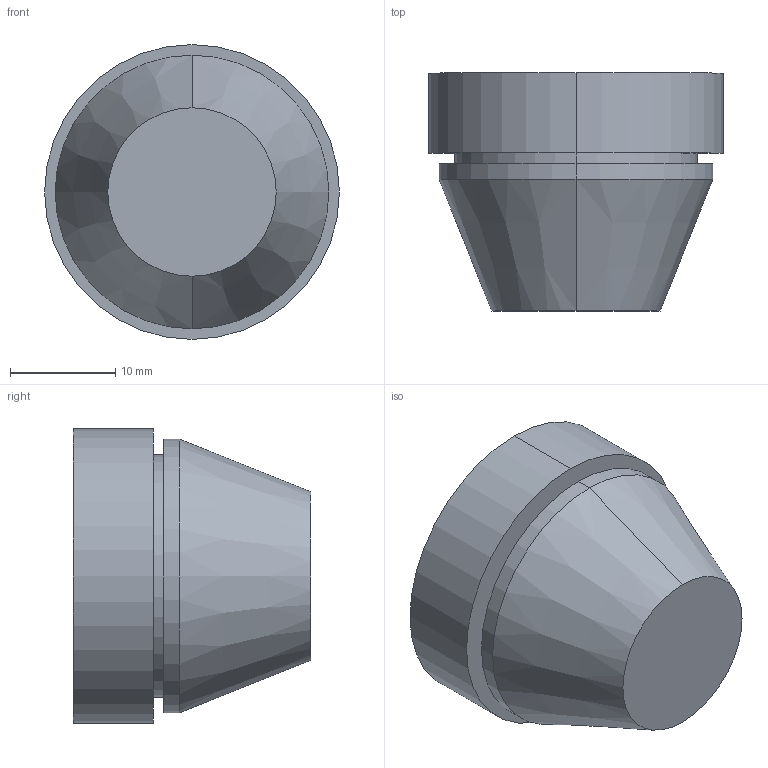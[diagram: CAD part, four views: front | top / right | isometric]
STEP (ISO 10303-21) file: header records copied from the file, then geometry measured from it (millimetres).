
FILE_DESCRIPTION (( 'STEP AP203' ), '1' );
FILE_NAME ('100291.STEP', '2012-10-29T10:37:10', ( 'Joni' ), ( 'Hewlett-Packard Company' ), 'SwSTEP 2.0', 'SolidWorks 2012', '' );
FILE_SCHEMA (( 'CONFIG_CONTROL_DESIGN' ));
Length unit declared in the file: millimetre
Products named in the file (1): 100291
Bounding box: 28 x 22.6 x 28 mm (x, y, z)
Volume: 10302.9 mm3; surface area: 2884 mm2
Topology: 1 solids, 1 shells, 12 faces, 22 edges, 14 vertices
Faces by surface type: cylinder 6, plane 4, cone 2
Entity records: 381 total; most frequent: DIRECTION 62, CARTESIAN_POINT 49, ORIENTED_EDGE 44, AXIS2_PLACEMENT_3D 27, EDGE_CURVE 22, CIRCLE 14, EDGE_LOOP 14, VERTEX_POINT 14
